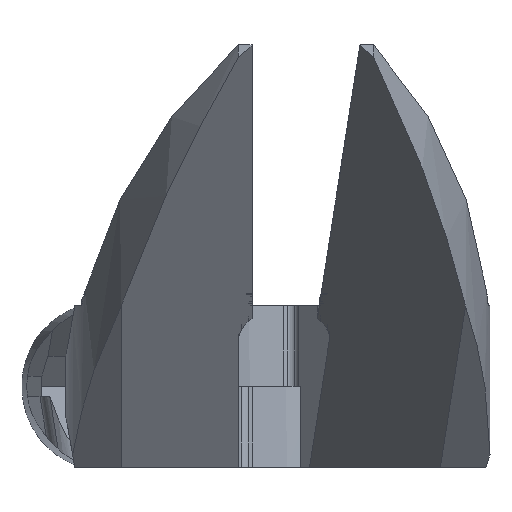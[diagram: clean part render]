
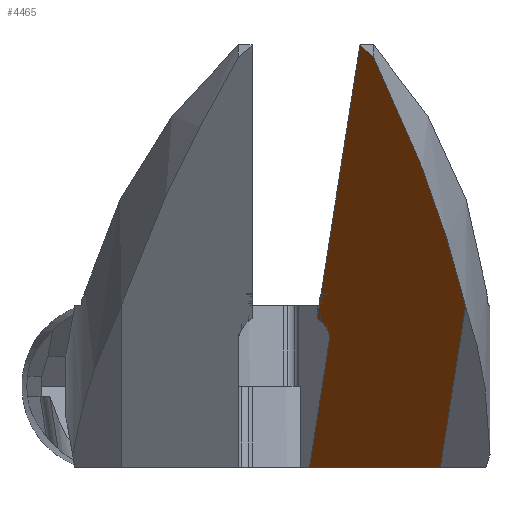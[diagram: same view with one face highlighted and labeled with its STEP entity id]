
A CAD part, left-side view. The second image highlights one B-rep face of the part: STEP entity #4465.
In plain terms, the highlighted planar face has unit normal (-0.683, 0.398, -0.612) as drawn and (-0.612, -0.5, 0.612) by its records, which use the part's own axes.
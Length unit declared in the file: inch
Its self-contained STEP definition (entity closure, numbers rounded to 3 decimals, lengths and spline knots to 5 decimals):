
#3793=CARTESIAN_POINT('',(-0.56921,1.19829,0.117));
#3794=VERTEX_POINT('',#3793);
#3810=CARTESIAN_POINT('',(-0.548,1.20708,0.14539));
#3811=VERTEX_POINT('',#3810);
#3818=CARTESIAN_POINT('',(-0.548,1.17708,0.1209));
#3819=DIRECTION('',(-0.612,-0.5,0.612));
#3820=DIRECTION('',(-0.474,-0.387,-0.791));
#3821=AXIS2_PLACEMENT_3D('',#3818,#3819,#3820);
#3822=ELLIPSE('',#3821,0.04899,0.03);
#3823=EDGE_CURVE('',#3811,#3794,#3822,.T.);
#3940=CARTESIAN_POINT('',(-0.578,1.17708,0.0909));
#3941=VERTEX_POINT('',#3940);
#3942=CARTESIAN_POINT('',(-0.548,1.17708,0.1209));
#3943=DIRECTION('',(-0.612,-0.5,0.612));
#3944=DIRECTION('',(-0.474,-0.387,-0.791));
#3945=AXIS2_PLACEMENT_3D('',#3942,#3943,#3944);
#3946=ELLIPSE('',#3945,0.04899,0.03);
#3947=EDGE_CURVE('',#3794,#3941,#3946,.T.);
#4006=CARTESIAN_POINT('',(-0.17889,1.20708,0.5145));
#4007=VERTEX_POINT('',#4006);
#4014=CARTESIAN_POINT('',(-0.17889,1.20708,0.5145));
#4015=DIRECTION('',(-0.707,0.0,-0.707));
#4016=VECTOR('',#4015,0.522);
#4017=LINE('',#4014,#4016);
#4018=EDGE_CURVE('',#4007,#3811,#4017,.T.);
#4271=CARTESIAN_POINT('',(-0.578,1.16708,0.08273));
#4272=VERTEX_POINT('',#4271);
#4279=CARTESIAN_POINT('',(-1.368,1.16708,-0.70727));
#4280=VERTEX_POINT('',#4279);
#4281=CARTESIAN_POINT('',(-0.578,1.16708,0.08273));
#4282=DIRECTION('',(-0.707,0.0,-0.707));
#4283=VECTOR('',#4282,1.11723);
#4284=LINE('',#4281,#4283);
#4285=EDGE_CURVE('',#4272,#4280,#4284,.T.);
#4417=CARTESIAN_POINT('',(-0.8474,1.36767,-0.02289));
#4418=DIRECTION('',(0.612,0.5,-0.612));
#4419=DIRECTION('',(-0.707,0.0,-0.707));
#4420=AXIS2_PLACEMENT_3D('',#4417,#4418,#4419);
#4421=PLANE('',#4420);
#4422=CARTESIAN_POINT('',(-1.368,1.20708,-0.67461));
#4423=VERTEX_POINT('',#4422);
#4424=CARTESIAN_POINT('',(-1.368,1.16708,-0.70727));
#4425=DIRECTION('',(0.0,0.775,0.632));
#4426=VECTOR('',#4425,0.05164);
#4427=LINE('',#4424,#4426);
#4428=EDGE_CURVE('',#4280,#4423,#4427,.T.);
#4429=ORIENTED_EDGE('',*,*,#4428,.F.);
#4430=ORIENTED_EDGE('',*,*,#4285,.F.);
#4431=CARTESIAN_POINT('',(-0.578,1.17708,0.0909));
#4432=DIRECTION('',(0.0,-0.775,-0.632));
#4433=VECTOR('',#4432,0.01291);
#4434=LINE('',#4431,#4433);
#4435=EDGE_CURVE('',#3941,#4272,#4434,.T.);
#4436=ORIENTED_EDGE('',*,*,#4435,.F.);
#4437=ORIENTED_EDGE('',*,*,#3947,.F.);
#4438=ORIENTED_EDGE('',*,*,#3823,.F.);
#4439=ORIENTED_EDGE('',*,*,#4018,.F.);
#4440=CARTESIAN_POINT('',(-0.4565,1.54708,0.5145));
#4441=VERTEX_POINT('',#4440);
#4442=CARTESIAN_POINT('',(-0.4565,1.54708,0.5145));
#4443=DIRECTION('',(0.632,-0.775,0.0));
#4444=VECTOR('',#4443,0.43894);
#4445=LINE('',#4442,#4444);
#4446=EDGE_CURVE('',#4441,#4007,#4445,.T.);
#4447=ORIENTED_EDGE('',*,*,#4446,.F.);
#4448=CARTESIAN_POINT('',(-0.92405,1.54708,0.04694));
#4449=VERTEX_POINT('',#4448);
#4450=CARTESIAN_POINT('',(-0.92405,1.54708,0.04694));
#4451=DIRECTION('',(0.707,0.,0.707));
#4452=VECTOR('',#4451,0.66123);
#4453=LINE('',#4450,#4452);
#4454=EDGE_CURVE('',#4449,#4441,#4453,.T.);
#4455=ORIENTED_EDGE('',*,*,#4454,.F.);
#4456=CARTESIAN_POINT('',(-0.24996,0.20708,-0.37307));
#4457=DIRECTION('',(0.612,0.5,-0.612));
#4458=DIRECTION('',(-0.474,-0.387,-0.791));
#4459=AXIS2_PLACEMENT_3D('',#4456,#4457,#4458);
#4460=ELLIPSE('',#4459,2.44949,1.5);
#4461=EDGE_CURVE('',#4423,#4449,#4460,.T.);
#4462=ORIENTED_EDGE('',*,*,#4461,.F.);
#4463=EDGE_LOOP('',(#4429,#4430,#4436,#4437,#4438,#4439,#4447,#4455,#4462));
#4464=FACE_OUTER_BOUND('',#4463,.T.);
#4465=ADVANCED_FACE('',(#4464),#4421,.F.);
